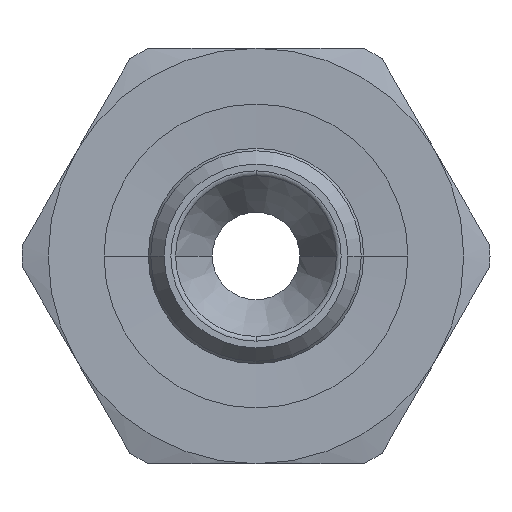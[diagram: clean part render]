
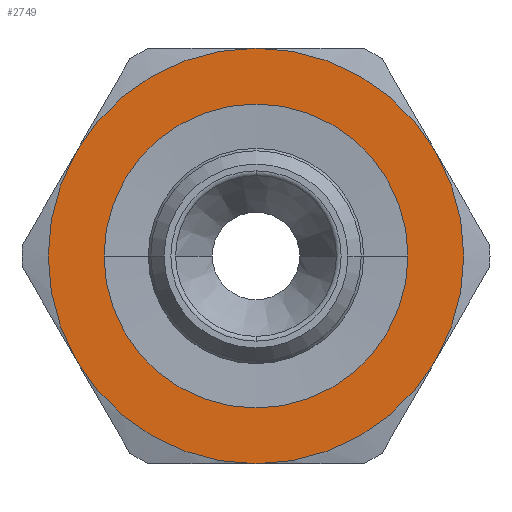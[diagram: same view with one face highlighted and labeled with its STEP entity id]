
A CAD part, left-side view. The second image highlights one B-rep face of the part: STEP entity #2749.
In plain terms, the highlighted planar face has unit normal (-1, 0, 0) as drawn and (0, 0, 1) by its records, which use the part's own axes.
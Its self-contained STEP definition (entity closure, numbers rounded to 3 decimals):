
#1176=CARTESIAN_POINT('',(0.,-6.95,3.));
#1177=VERTEX_POINT('',#1176);
#1193=CARTESIAN_POINT('',(0.,6.95,3.0));
#1194=VERTEX_POINT('',#1193);
#1201=CARTESIAN_POINT('',(0.,0.,3.0));
#1202=DIRECTION('',(0.0,0.0,-1.0));
#1203=DIRECTION('',(0.0,-1.0,0.0));
#1204=AXIS2_PLACEMENT_3D('',#1201,#1202,#1203);
#1205=CIRCLE('',#1204,6.95);
#1206=EDGE_CURVE('',#1177,#1194,#1205,.T.);
#1563=CARTESIAN_POINT('',(0.,0.,3.0));
#1564=DIRECTION('',(0.0,0.0,-1.0));
#1565=DIRECTION('',(0.0,-1.0,0.0));
#1566=AXIS2_PLACEMENT_3D('',#1563,#1564,#1565);
#1567=CIRCLE('',#1566,6.95);
#1568=EDGE_CURVE('',#1194,#1177,#1567,.T.);
#2122=CARTESIAN_POINT('',(4.75,-8.227,3.));
#2123=VERTEX_POINT('',#2122);
#2137=CARTESIAN_POINT('',(-4.75,-8.227,3.));
#2138=VERTEX_POINT('',#2137);
#2139=CARTESIAN_POINT('',(0.,0.0,3.0));
#2140=DIRECTION('',(0.0,0.0,1.0));
#2141=DIRECTION('',(1.0,0.0,0.0));
#2142=AXIS2_PLACEMENT_3D('',#2139,#2140,#2141);
#2143=CIRCLE('',#2142,9.5);
#2144=EDGE_CURVE('',#2138,#2123,#2143,.T.);
#2222=CARTESIAN_POINT('',(-9.5,0.,3.));
#2223=VERTEX_POINT('',#2222);
#2224=CARTESIAN_POINT('',(0.,0.0,3.0));
#2225=DIRECTION('',(0.0,0.0,1.0));
#2226=DIRECTION('',(1.0,0.0,0.0));
#2227=AXIS2_PLACEMENT_3D('',#2224,#2225,#2226);
#2228=CIRCLE('',#2227,9.5);
#2229=EDGE_CURVE('',#2223,#2138,#2228,.T.);
#2306=CARTESIAN_POINT('',(-4.75,8.227,3.));
#2307=VERTEX_POINT('',#2306);
#2308=CARTESIAN_POINT('',(0.,0.0,3.0));
#2309=DIRECTION('',(0.0,0.0,1.0));
#2310=DIRECTION('',(1.0,0.0,0.0));
#2311=AXIS2_PLACEMENT_3D('',#2308,#2309,#2310);
#2312=CIRCLE('',#2311,9.5);
#2313=EDGE_CURVE('',#2307,#2223,#2312,.T.);
#2390=CARTESIAN_POINT('',(4.75,8.227,3.));
#2391=VERTEX_POINT('',#2390);
#2392=CARTESIAN_POINT('',(0.,0.0,3.0));
#2393=DIRECTION('',(0.0,0.0,1.0));
#2394=DIRECTION('',(1.0,0.0,0.0));
#2395=AXIS2_PLACEMENT_3D('',#2392,#2393,#2394);
#2396=CIRCLE('',#2395,9.5);
#2397=EDGE_CURVE('',#2391,#2307,#2396,.T.);
#2475=CARTESIAN_POINT('',(9.5,0.0,3.));
#2476=VERTEX_POINT('',#2475);
#2477=CARTESIAN_POINT('',(0.,0.0,3.0));
#2478=DIRECTION('',(0.0,0.0,1.0));
#2479=DIRECTION('',(1.0,0.0,0.0));
#2480=AXIS2_PLACEMENT_3D('',#2477,#2478,#2479);
#2481=CIRCLE('',#2480,9.5);
#2482=EDGE_CURVE('',#2476,#2391,#2481,.T.);
#2559=CARTESIAN_POINT('',(0.,0.0,3.0));
#2560=DIRECTION('',(0.0,0.0,1.0));
#2561=DIRECTION('',(1.0,0.0,0.0));
#2562=AXIS2_PLACEMENT_3D('',#2559,#2560,#2561);
#2563=CIRCLE('',#2562,9.5);
#2564=EDGE_CURVE('',#2123,#2476,#2563,.T.);
#2732=CARTESIAN_POINT('',(0.,0.,3.0));
#2733=DIRECTION('',(0.0,0.0,1.0));
#2734=DIRECTION('',(1.0,0.0,0.0));
#2735=AXIS2_PLACEMENT_3D('',#2732,#2733,#2734);
#2736=PLANE('',#2735);
#2737=ORIENTED_EDGE('',*,*,#2564,.T.);
#2738=ORIENTED_EDGE('',*,*,#2482,.T.);
#2739=ORIENTED_EDGE('',*,*,#2397,.T.);
#2740=ORIENTED_EDGE('',*,*,#2313,.T.);
#2741=ORIENTED_EDGE('',*,*,#2229,.T.);
#2742=ORIENTED_EDGE('',*,*,#2144,.T.);
#2743=EDGE_LOOP('',(#2737,#2738,#2739,#2740,#2741,#2742));
#2744=FACE_OUTER_BOUND('',#2743,.T.);
#2745=ORIENTED_EDGE('',*,*,#1206,.T.);
#2746=ORIENTED_EDGE('',*,*,#1568,.T.);
#2747=EDGE_LOOP('',(#2745,#2746));
#2748=FACE_BOUND('',#2747,.T.);
#2749=ADVANCED_FACE('',(#2744,#2748),#2736,.T.);
